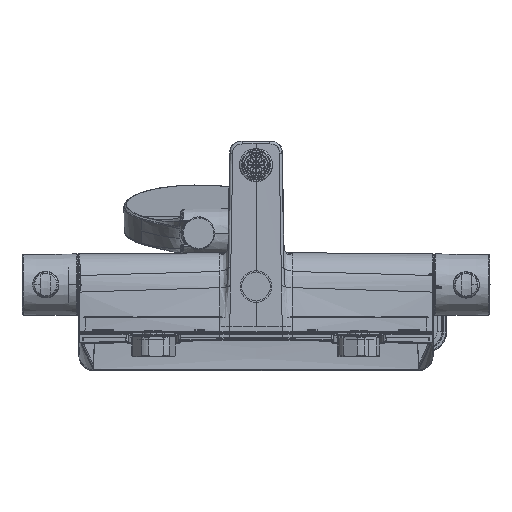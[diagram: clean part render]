
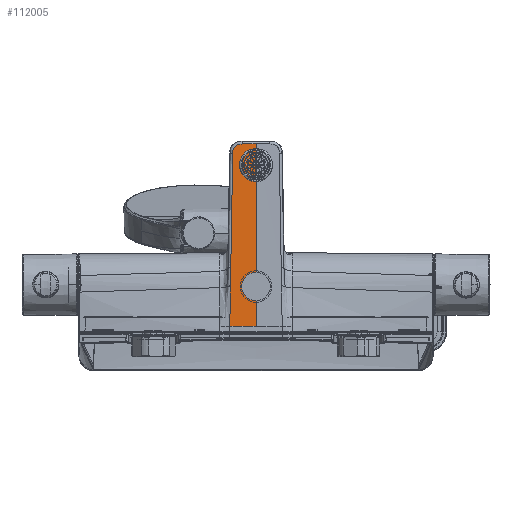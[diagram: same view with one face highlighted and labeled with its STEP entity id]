
A CAD part, front view. The second image highlights one B-rep face of the part: STEP entity #112005.
In plain terms, the highlighted cylindrical face has radius 8452.9 mm (diameter 16905.8 mm), a partial arc.
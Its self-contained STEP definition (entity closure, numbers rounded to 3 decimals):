
#3238 = CIRCLE ( 'NONE', #48422, 8452.897 ) ;
#3925 = CARTESIAN_POINT ( 'NONE',  ( -15.054, -532.578, 90.871 ) ) ;
#11236 = CARTESIAN_POINT ( 'NONE',  ( -9.297, -532.444, 97.738 ) ) ;
#12109 = CARTESIAN_POINT ( 'NONE',  ( -9.756, -532.444, 97.691 ) ) ;
#14713 = CARTESIAN_POINT ( 'NONE',  ( -12.67, -532.462, 96.598 ) ) ;
#15825 = VERTEX_POINT ( 'NONE', #55753 ) ;
#16394 = CARTESIAN_POINT ( 'NONE',  ( -11.319, -532.449, 97.325 ) ) ;
#24145 = B_SPLINE_CURVE_WITH_KNOTS ( 'NONE', 3,
 ( #41905, #46290, #164726, #3925 ),
 .UNSPECIFIED., .F., .F.,
 ( 4, 4 ),
 ( 0., 1. ),
 .UNSPECIFIED. ) ;
#24168 = CARTESIAN_POINT ( 'NONE',  ( -15.054, -532.578, 90.871 ) ) ;
#26399 = CARTESIAN_POINT ( 'NONE',  ( -17.189, -535.223, -35.595 ) ) ;
#27750 = DIRECTION ( 'NONE',  ( 0., 0.021, 1. ) ) ;
#34997 = CARTESIAN_POINT ( 'NONE',  ( -12.571, -532.461, 96.668 ) ) ;
#40019 = VERTEX_POINT ( 'NONE', #24168 ) ;
#40233 = CARTESIAN_POINT ( 'NONE',  ( -16.692, -534.607, -6.149 ) ) ;
#41905 = CARTESIAN_POINT ( 'NONE',  ( -16.464, -534.325, 7.358 ) ) ;
#42442 = EDGE_CURVE ( 'NONE', #58200, #247237, #55527, .T. ) ;
#42858 = CARTESIAN_POINT ( 'NONE',  ( -16.503, -534.368, 5.107 ) ) ;
#44974 = VERTEX_POINT ( 'NONE', #186667 ) ;
#46290 = CARTESIAN_POINT ( 'NONE',  ( -15.994, -533.743, 35.196 ) ) ;
#48422 = AXIS2_PLACEMENT_3D ( 'NONE', #226521, #27750, #147097 ) ;
#55527 = LINE ( 'NONE', #60754, #251424 ) ;
#55753 = CARTESIAN_POINT ( 'NONE',  ( -16.692, -534.607, -6.149 ) ) ;
#57031 = CARTESIAN_POINT ( 'NONE',  ( -13.207, -532.471, 96.152 ) ) ;
#58200 = VERTEX_POINT ( 'NONE', #91206 ) ;
#60754 = CARTESIAN_POINT ( 'NONE',  ( 2.179, -532.379, 101.209 ) ) ;
#61628 = EDGE_LOOP ( 'NONE', ( #128086, #180779, #199946, #133803, #98004, #163431, #68126 ) ) ;
#62297 = CARTESIAN_POINT ( 'NONE',  ( -16.54, -534.419, 2.856 ) ) ;
#66171 = CARTESIAN_POINT ( 'NONE',  ( -17.024, -535.019, -25.779 ) ) ;
#68126 = ORIENTED_EDGE ( 'NONE', *, *, #181701, .T. ) ;
#70547 = CYLINDRICAL_SURFACE ( 'NONE', #251519, 8452.897 ) ;
#78252 = CARTESIAN_POINT ( 'NONE',  ( -12.272, -532.458, 96.864 ) ) ;
#80925 = CARTESIAN_POINT ( 'NONE',  ( -16.616, -534.513, -1.647 ) ) ;
#84829 = CARTESIAN_POINT ( 'NONE',  ( -16.692, -534.607, -6.149 ) ) ;
#91206 = CARTESIAN_POINT ( 'NONE',  ( 2.179, -532.451, 97.75 ) ) ;
#92498 = CARTESIAN_POINT ( 'NONE',  ( -9.643, -532.444, 97.704 ) ) ;
#93377 = CARTESIAN_POINT ( 'NONE',  ( -9.978, -532.444, 97.66 ) ) ;
#94252 = CARTESIAN_POINT ( 'NONE',  ( -10.634, -532.446, 97.529 ) ) ;
#95109 = CARTESIAN_POINT ( 'NONE',  ( -13.123, -532.469, 96.229 ) ) ;
#96044 = CARTESIAN_POINT ( 'NONE',  ( -8.055, -532.445, 97.75 ) ) ;
#96852 = CARTESIAN_POINT ( 'NONE',  ( -12.858, -532.465, 96.454 ) ) ;
#97707 = CARTESIAN_POINT ( 'NONE',  ( -10.801, -532.447, 97.485 ) ) ;
#98004 = ORIENTED_EDGE ( 'NONE', *, *, #181599, .F. ) ;
#98542 = CARTESIAN_POINT ( 'NONE',  ( -14.527, -532.495, 94.862 ) ) ;
#101468 = DIRECTION ( 'NONE',  ( 0., -0.021, -1. ) ) ;
#103410 = CARTESIAN_POINT ( 'NONE',  ( -16.775, -534.71, -11.057 ) ) ;
#112005 = ADVANCED_FACE ( 'NONE', ( #165359 ), #70547, .T. ) ;
#113702 = CARTESIAN_POINT ( 'NONE',  ( -10.086, -532.445, 97.643 ) ) ;
#117173 = CARTESIAN_POINT ( 'NONE',  ( -15.116, -532.53, 93.128 ) ) ;
#118136 = DIRECTION ( 'NONE',  ( 0., -0.021, -1. ) ) ;
#120173 = CARTESIAN_POINT ( 'NONE',  ( -17.189, -535.223, -35.595 ) ) ;
#123495 = EDGE_CURVE ( 'NONE', #231854, #40019, #135533, .T. ) ;
#128086 = ORIENTED_EDGE ( 'NONE', *, *, #42442, .F. ) ;
#131547 = CARTESIAN_POINT ( 'NONE',  ( 2.179, 7918.664, -75.815 ) ) ;
#133803 = ORIENTED_EDGE ( 'NONE', *, *, #147437, .F. ) ;
#135533 = B_SPLINE_CURVE_WITH_KNOTS ( 'NONE', 3,
 ( #212528, #232878, #155243, #253216, #11236, #92498, #12109, #93377, #113702, #215141, #193979, #94252, #171126, #97707, #199171, #16394, #256635, #178060, #78252, #135757, #34997, #14713, #96852, #177223, #95109, #57031, #178933, #98542, #117173, #216925 ),
 .UNSPECIFIED., .F., .F.,
 ( 4, 2, 2, 2, 2, 1, 2, 2, 2, 2, 2, 2, 1, 2, 2, 4 ),
 ( 0., 0.063, 0.125, 0.156, 0.188, 0.219, 0.234, 0.25, 0.313, 0.375, 0.406, 0.438, 0.469, 0.484, 0.5, 1. ),
 .UNSPECIFIED. ) ;
#135757 = CARTESIAN_POINT ( 'NONE',  ( -12.372, -532.459, 96.801 ) ) ;
#135830 = CARTESIAN_POINT ( 'NONE',  ( 2.179, -532.451, 97.75 ) ) ;
#144926 = CARTESIAN_POINT ( 'NONE',  ( -16.858, -534.813, -15.964 ) ) ;
#147097 = DIRECTION ( 'NONE',  ( 0., -1., 0.021 ) ) ;
#147437 = EDGE_CURVE ( 'NONE', #44974, #40019, #24145, .T. ) ;
#149114 = CARTESIAN_POINT ( 'NONE',  ( -8.055, -532.445, 97.75 ) ) ;
#155243 = CARTESIAN_POINT ( 'NONE',  ( -8.564, -532.444, 97.764 ) ) ;
#163431 = ORIENTED_EDGE ( 'NONE', *, *, #197914, .F. ) ;
#164726 = CARTESIAN_POINT ( 'NONE',  ( -15.524, -533.161, 63.033 ) ) ;
#165359 = FACE_OUTER_BOUND ( 'NONE', #61628, .T. ) ;
#171126 = CARTESIAN_POINT ( 'NONE',  ( -10.746, -532.447, 97.5 ) ) ;
#177223 = CARTESIAN_POINT ( 'NONE',  ( -12.995, -532.467, 96.343 ) ) ;
#178060 = CARTESIAN_POINT ( 'NONE',  ( -11.966, -532.454, 97.041 ) ) ;
#178933 = CARTESIAN_POINT ( 'NONE',  ( -13.25, -532.472, 96.111 ) ) ;
#180779 = ORIENTED_EDGE ( 'NONE', *, *, #189154, .T. ) ;
#181599 = EDGE_CURVE ( 'NONE', #15825, #44974, #242152, .T. ) ;
#181701 = EDGE_CURVE ( 'NONE', #236121, #247237, #3238, .T. ) ;
#185505 = CARTESIAN_POINT ( 'NONE',  ( -17.148, -535.166, -33.141 ) ) ;
#186667 = CARTESIAN_POINT ( 'NONE',  ( -16.464, -534.325, 7.358 ) ) ;
#189154 = EDGE_CURVE ( 'NONE', #58200, #231854, #227427, .T. ) ;
#191809 = CARTESIAN_POINT ( 'NONE',  ( 2.179, -535.244, -35.594 ) ) ;
#193979 = CARTESIAN_POINT ( 'NONE',  ( -10.467, -532.446, 97.569 ) ) ;
#197558 = DIRECTION ( 'NONE',  ( 0., -1., 0.021 ) ) ;
#197914 = EDGE_CURVE ( 'NONE', #236121, #15825, #199262, .T. ) ;
#199171 = CARTESIAN_POINT ( 'NONE',  ( -11.093, -532.448, 97.404 ) ) ;
#199262 = B_SPLINE_CURVE_WITH_KNOTS ( 'NONE', 3,
 ( #26399, #185505, #205702, #66171, #204004, #144926, #103410, #84829 ),
 .UNSPECIFIED., .F., .F.,
 ( 4, 2, 2, 4 ),
 ( 0., 0.25, 0.5, 1. ),
 .UNSPECIFIED. ) ;
#199946 = ORIENTED_EDGE ( 'NONE', *, *, #123495, .T. ) ;
#203574 = CARTESIAN_POINT ( 'NONE',  ( -16.464, -534.325, 7.358 ) ) ;
#204004 = CARTESIAN_POINT ( 'NONE',  ( -16.982, -534.966, -23.326 ) ) ;
#205702 = CARTESIAN_POINT ( 'NONE',  ( -17.107, -535.125, -30.687 ) ) ;
#212528 = CARTESIAN_POINT ( 'NONE',  ( -8.055, -532.445, 97.75 ) ) ;
#215141 = CARTESIAN_POINT ( 'NONE',  ( -10.303, -532.445, 97.604 ) ) ;
#216925 = CARTESIAN_POINT ( 'NONE',  ( -15.054, -532.578, 90.871 ) ) ;
#218693 = CARTESIAN_POINT ( 'NONE',  ( -4.643, -532.449, 97.75 ) ) ;
#222158 = CARTESIAN_POINT ( 'NONE',  ( -16.654, -534.56, -3.898 ) ) ;
#226521 = CARTESIAN_POINT ( 'NONE',  ( 2.179, 7915.798, -212.618 ) ) ;
#227427 = B_SPLINE_CURVE_WITH_KNOTS ( 'NONE', 3,
 ( #135830, #258492, #218693, #96044 ),
 .UNSPECIFIED., .F., .F.,
 ( 4, 4 ),
 ( 0.491, 1. ),
 .UNSPECIFIED. ) ;
#231854 = VERTEX_POINT ( 'NONE', #149114 ) ;
#232878 = CARTESIAN_POINT ( 'NONE',  ( -8.312, -532.445, 97.762 ) ) ;
#236121 = VERTEX_POINT ( 'NONE', #120173 ) ;
#242152 = B_SPLINE_CURVE_WITH_KNOTS ( 'NONE', 3,
 ( #40233, #222158, #80925, #62297, #42858, #203574 ),
 .UNSPECIFIED., .F., .F.,
 ( 4, 2, 4 ),
 ( 0., 0.5, 1. ),
 .UNSPECIFIED. ) ;
#247237 = VERTEX_POINT ( 'NONE', #191809 ) ;
#251424 = VECTOR ( 'NONE', #101468, 1000. ) ;
#251519 = AXIS2_PLACEMENT_3D ( 'NONE', #131547, #118136, #197558 ) ;
#253216 = CARTESIAN_POINT ( 'NONE',  ( -9.056, -532.444, 97.753 ) ) ;
#256635 = CARTESIAN_POINT ( 'NONE',  ( -11.756, -532.453, 97.144 ) ) ;
#258492 = CARTESIAN_POINT ( 'NONE',  ( -1.232, -532.451, 97.75 ) ) ;
